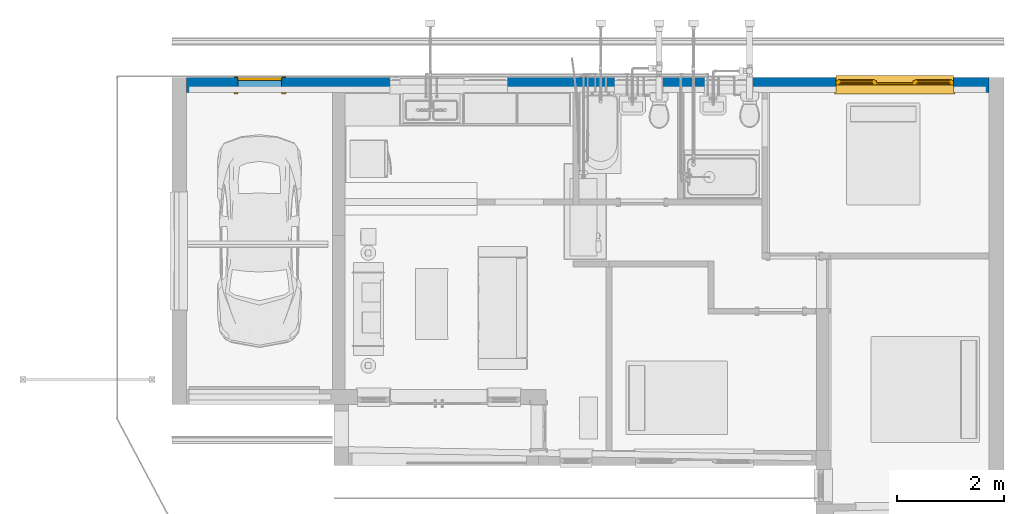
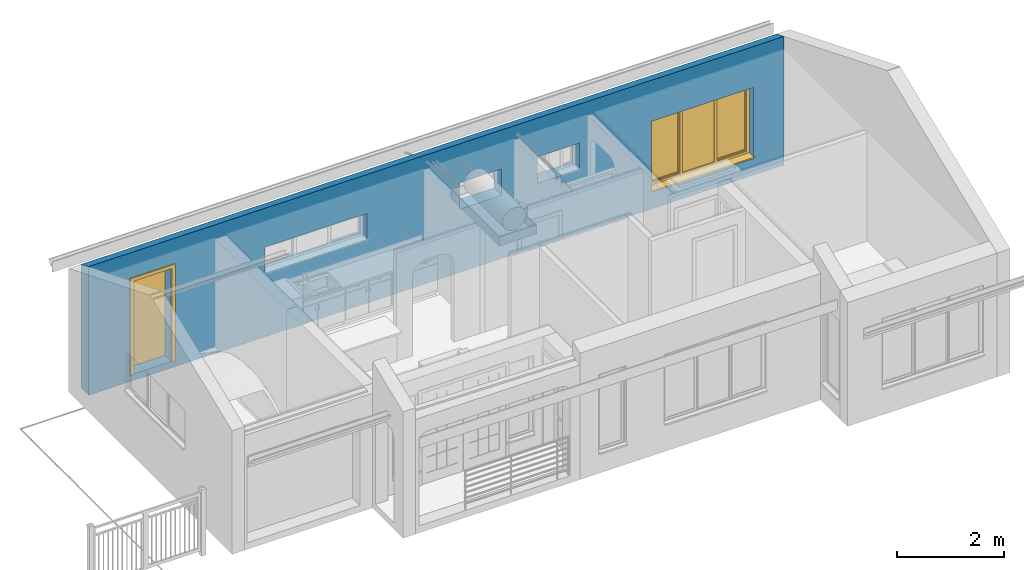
# One storey, part 5 of 41: 1 door, 1 wall, 1 window, 5 openings.
"""IFC2X3 building model written with IfcOpenShell, lengths in millimetres."""

from ifc_helpers import new_model, entity, si_unit, converted_unit, derived_unit, direction, frame, frame_2d, origin, place, context, subcontext, project, spatial, polyline, rectangle, outline, extrude, clip, bounded_halfspace, faceted_brep, source, transform, mapped, material, material_list, layer, layer_set, layer_usage, type_object, type_shapes, element, fill, save


model = new_model("IFC2X3")

# Units and contexts
model_context = context("Model", 3, precision=0.01, world=origin(), true_north=direction((6.12303176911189e-17, 1.0)))
body_context = subcontext(model_context, "Body", "Model", "MODEL_VIEW")
ifc_project = project(units=[si_unit("LENGTHUNIT", "METRE", prefix="MILLI"), si_unit("AREAUNIT", "SQUARE_METRE"), si_unit("VOLUMEUNIT", "CUBIC_METRE"), converted_unit("PLANEANGLEUNIT", "DEGREE", entity("IfcRatioMeasure", 0.0174532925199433), si_unit("PLANEANGLEUNIT", "RADIAN"), dimensions=[0, 0, 0, 0, 0, 0, 0]), si_unit("MASSUNIT", "GRAM", prefix="KILO"), derived_unit("MASSDENSITYUNIT", [(si_unit("MASSUNIT", "GRAM", prefix="KILO"), 1), (si_unit("LENGTHUNIT", "METRE"), -3)]), si_unit("TIMEUNIT", "SECOND"), si_unit("FREQUENCYUNIT", "HERTZ"), si_unit("THERMODYNAMICTEMPERATUREUNIT", "DEGREE_CELSIUS"), derived_unit("THERMALTRANSMITTANCEUNIT", [(si_unit("MASSUNIT", "GRAM", prefix="KILO"), 1), (si_unit("THERMODYNAMICTEMPERATUREUNIT", "KELVIN"), -1), (si_unit("TIMEUNIT", "SECOND"), -3)]), derived_unit("VOLUMETRICFLOWRATEUNIT", [(si_unit("LENGTHUNIT", "METRE"), 3), (si_unit("TIMEUNIT", "SECOND"), -1)]), si_unit("ELECTRICCURRENTUNIT", "AMPERE"), si_unit("ELECTRICVOLTAGEUNIT", "VOLT"), si_unit("POWERUNIT", "WATT"), si_unit("FORCEUNIT", "NEWTON", prefix="KILO"), si_unit("ILLUMINANCEUNIT", "LUX"), si_unit("LUMINOUSFLUXUNIT", "LUMEN"), si_unit("LUMINOUSINTENSITYUNIT", "CANDELA"), derived_unit("USERDEFINED", [(si_unit("MASSUNIT", "GRAM", prefix="KILO"), -1), (si_unit("LENGTHUNIT", "METRE"), -2), (si_unit("TIMEUNIT", "SECOND"), 3), (si_unit("LUMINOUSFLUXUNIT", "LUMEN"), 1)]), derived_unit("LINEARVELOCITYUNIT", [(si_unit("LENGTHUNIT", "METRE"), 1), (si_unit("TIMEUNIT", "SECOND"), -1)]), si_unit("PRESSUREUNIT", "PASCAL"), derived_unit("USERDEFINED", [(si_unit("LENGTHUNIT", "METRE"), -2), (si_unit("MASSUNIT", "GRAM", prefix="KILO"), 1), (si_unit("TIMEUNIT", "SECOND"), -2)])], contexts=[model_context])

# Site, building, storey
site_placement = place(None, origin())
site = spatial("IfcSite", under=ifc_project, at=site_placement, Name="Surface", CompositionType="ELEMENT")
building_placement = place(site_placement, origin())
building = spatial("IfcBuilding", under=site, at=building_placement, CompositionType="ELEMENT")
storey_placement = place(building_placement, frame((0.0, 0.0, 300.0)))
storey = spatial("IfcBuildingStorey", under=building, at=storey_placement, Name="F.F.L", CompositionType="ELEMENT", Elevation=300.0)

# Wall, openings, window, door
ifc_material_1 = material(Name="Brickwork - Facebrick (Plettenberg Autumn)")
ifc_layer_1 = layer(ifc_material_1, 110.0)
ifc_material_2 = material(Name="Air Infiltration Barrier")
ifc_layer_2 = layer(ifc_material_2, 50.0)
ifc_material_3 = material(Name="Brickwork - 110mm (Stock)")
ifc_layer_3 = layer(ifc_material_3, 110.0)
ifc_material_4 = material(Name="Plaster")
ifc_layer_4 = layer(ifc_material_4, 10.0)
ifc_layer_set = layer_set([ifc_layer_1, ifc_layer_2, ifc_layer_3, ifc_layer_4], Name="Basic Wall:BrickWall - 270mm (Ext.F&Int.S)")
ifc_layer_usage = layer_usage(ifc_layer_set, "AXIS2", "NEGATIVE", 140.0)
wall_type = type_object("IfcWallType", Name="Basic Wall:BrickWall - 270mm (Ext.F&Int.S)", PredefinedType="STANDARD", material=ifc_layer_set)
wall_placement = place(storey_placement, frame((-11816.8751700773, 10685.8400891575, -150.0)))
wall = element("IfcWallStandardCase", 1, at=wall_placement, inside=storey, type_object=wall_type, material=ifc_layer_usage, Name="Basic Wall:BrickWall - 270mm (Ext.F&Int.S)", ObjectType="Basic Wall:BrickWall - 270mm (Ext.F&Int.S)", context=body_context, shape_type="Clipping", body=[
    clip(extrude(rectangle(XDim=15000.0, YDim=280.000000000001, at=frame_2d((7500.0, 1.98951966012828e-13), x_axis=(-1.0, 0.0))), origin(), (0.0, 0.0, 1.0), 2933.40741269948), bounded_halfspace(frame((0.0, -140.0, 2933.40741269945), z_axis=(0.0, 0.374606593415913, 0.927183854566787), x_axis=(-1.0, 0.0, 0.0)), False, frame((0.0, -140.0, 2933.40741269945)), polyline([(0.0, 0.0), (2730.0, 0.0), (2960.0, 0.0), (15000.0, 0.0), (15000.0, 280.0), (0.0, 280.0), (0.0, 0.0)]))),
])
opening_1_placement = place(wall_placement, frame((12140.0, -140.0, 400.0)))
opening_1 = element("IfcOpeningElement", 2, at=opening_1_placement, cuts=wall, Name="Tpl All Bars1:Tpl All Bars 4:1", ObjectType="Opening", context=body_context, shape_type="SweptSolid", body=[
    extrude(rectangle(XDim=1600.0, YDim=2200.0, at=frame_2d((800.0, 1100.0), x_axis=(-1.0, 0.0))), frame((0.0, 0.0, 0.0), z_axis=(0.0, 1.0, 0.0), x_axis=(0.0, 0.0, 1.0)), (0.0, 0.0, 1.0), 280.0),
])
opening_2_placement = place(wall_placement, frame((968.500000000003, -140.0, 150.0)))
opening_2 = element("IfcOpeningElement", 3, at=opening_2_placement, cuts=wall, Name="M_Single-Flush:0813 x 2134mm:1", ObjectType="Opening", context=body_context, shape_type="SweptSolid", body=[
    extrude(rectangle(XDim=813.0, YDim=2134.0, at=frame_2d((1067.0, 406.5), x_axis=(0.0, 1.0))), frame((0.0, 0.0, 0.0), z_axis=(0.0, 1.0, 0.0), x_axis=(0.0, 0.0, 1.0)), (0.0, 0.0, 1.0), 280.0),
])
opening_3_placement = place(wall_placement, frame((3805.0, -140.0, 1444.0)))
element("IfcOpeningElement", 4, at=opening_3_placement, cuts=wall, Name="Tpl All Bars1:Tpl All Bars 2:1", ObjectType="Opening", context=body_context, shape_type="SweptSolid", body=[
    extrude(rectangle(XDim=600.000000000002, YDim=2200.0, at=frame_2d((300.000000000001, 1100.0), x_axis=(-1.0, 0.0))), frame((0.0, 0.0, 0.0), z_axis=(0.0, 1.0, 0.0), x_axis=(0.0, 0.0, 1.0)), (0.0, 0.0, 1.0), 280.0),
])
opening_4_placement = place(wall_placement, frame((9685.0, -140.0, 1444.0)))
element("IfcOpeningElement", 5, at=opening_4_placement, cuts=wall, Name="Tpl All Bars1:Tpl All Bars 3:1", ObjectType="Opening", context=body_context, shape_type="SweptSolid", body=[
    extrude(rectangle(XDim=600.000000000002, YDim=899.999999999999, at=frame_2d((300.000000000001, 449.999999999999), x_axis=(-1.0, 0.0))), frame((0.0, 0.0, 0.0), z_axis=(0.0, 1.0, 0.0), x_axis=(0.0, 0.0, 1.0)), (0.0, 0.0, 1.0), 280.0),
])
opening_5_placement = place(wall_placement, frame((8005.0, -140.0, 1444.0)))
element("IfcOpeningElement", 6, at=opening_5_placement, cuts=wall, Name="Tpl All Bars1:Tpl All Bars 3:1", ObjectType="Opening", context=body_context, shape_type="SweptSolid", body=[
    extrude(rectangle(XDim=600.000000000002, YDim=899.999999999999, at=frame_2d((300.000000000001, 449.999999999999), x_axis=(-1.0, 0.0))), frame((0.0, 0.0, 0.0), z_axis=(0.0, 1.0, 0.0), x_axis=(0.0, 0.0, 1.0)), (0.0, 0.0, 1.0), 280.0),
])
ifc_material_5 = material(Name="Meranti - Varnish Mat")
ifc_material_6 = material(Name="Glass")
ifc_material_list_1 = material_list([ifc_material_5, ifc_material_6])
ifc_material_list_2 = material_list([ifc_material_5, ifc_material_6])
window_style = type_object("IfcWindowStyle", Name="Tpl All Bars 4", ConstructionType="NOTDEFINED", OperationType="TRIPLE_PANEL_VERTICAL", ParameterTakesPrecedence=False, Sizeable=False, material=ifc_material_list_2)
shared_shape_1 = source(origin(), body_context, "Body", "Brep", [
    faceted_brep([(-25.0, -25.0, 0.0), (-25.0, 0.0, 0.0), (0.0, 0.0, 0.0), (0.0, 147.0, 0.0), (2200.0, 147.0, 0.0), (2200.0, 0.0, 0.0), (2225.0, 0.0, 0.0), (2225.0, -25.0, 0.0), (-25.0, -25.0, 25.0), (2225.0, -25.0, 25.0), (2225.0, 0.0, 25.0), (2200.0, 0.0, 25.0), (2200.0, 147.0, 25.0), (0.0, 147.0, 25.0), (0.0, 0.0, 25.0), (-25.0, 0.0, 25.0)], [[[0, 1, 2, 3, 4, 5, 6, 7]], [[8, 9, 10, 11, 12, 13, 14, 15]], [[1, 0, 8, 15]], [[2, 1, 15, 14]], [[3, 2, 14, 13]], [[4, 3, 13, 12]], [[5, 4, 12, 11]], [[6, 5, 11, 10]], [[7, 6, 10, 9]], [[0, 7, 9, 8]]]),
    faceted_brep([(2140.0, 147.0, 1540.0), (2140.0, 147.0, 75.0), (1499.66666666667, 147.0, 75.0), (1499.66666666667, 147.0, 1540.0), (1441.66666666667, 147.0, 1540.0), (1441.66666666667, 147.0, 75.0), (758.333333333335, 147.0, 75.0), (758.333333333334, 147.0, 1540.0), (700.333333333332, 147.0, 1540.0), (700.333333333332, 147.0, 75.0), (60.0, 147.0, 75.0), (60.0, 147.0, 1540.0), (2200.0, 147.0, 1600.0), (0.0, 147.0, 1600.0), (0.0, 147.0, 0.0), (2200.0, 147.0, 0.0), (0.0, 230.0, 1600.0), (0.0, 230.0, 51.0), (0.0, 245.0, 49.6876700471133), (0.0, 245.0, 44.7449676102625), (0.0, 317.500000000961, 33.808884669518), (0.0, 317.500000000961, 0.0), (2200.0, 230.0, 1600.0), (2200.0, 230.0, 51.0), (40.0, 230.0, 1560.0), (40.0, 230.0, 63.0), (718.333333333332, 230.0, 63.0), (718.333333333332, 230.0, 1560.0), (758.333333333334, 230.0, 1560.0), (758.333333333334, 230.0, 63.0), (1441.66666666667, 230.0, 63.0), (1441.66666666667, 230.0, 1560.0), (1481.66666666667, 230.0, 1560.0), (1481.66666666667, 230.0, 63.0), (2160.0, 230.0, 63.0), (2160.0, 230.0, 1560.0), (40.0, 165.0, 1560.0), (40.0, 165.0, 63.0), (718.333333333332, 165.0, 1560.0), (718.333333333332, 165.0, 63.0), (700.333333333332, 165.0, 1540.0), (60.0, 165.0, 1540.0), (60.0, 165.0, 75.0), (700.333333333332, 165.0, 75.0), (2200.0, 317.500000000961, 0.0), (2200.0, 317.500000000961, 33.808884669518), (2200.0, 245.0, 44.7449676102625), (2200.0, 245.0, 49.6876700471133), (2160.0, 165.0, 63.0), (2160.0, 165.0, 1560.0), (2140.0, 165.0, 1540.0), (2140.0, 165.0, 75.0), (758.333333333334, 165.0, 1540.0), (758.333333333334, 165.0, 75.0), (758.333333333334, 189.0, 1560.0), (758.333333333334, 189.0, 63.0), (748.333333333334, 189.0, 1560.0), (748.333333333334, 189.0, 63.0), (748.333333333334, 165.0, 1560.0), (748.333333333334, 165.0, 63.0), (1451.66666666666, 189.0, 1560.0), (1451.66666666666, 189.0, 63.0), (1451.66666666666, 165.0, 63.0), (1451.66666666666, 165.0, 1560.0), (1441.66666666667, 189.0, 1560.0), (1441.66666666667, 189.0, 63.0), (1481.66666666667, 165.0, 1560.0), (1481.66666666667, 165.0, 63.0), (1499.66666666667, 165.0, 1540.0), (1499.66666666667, 165.0, 75.0), (1441.66666666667, 165.0, 1540.0), (1441.66666666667, 165.0, 75.0)], [[[0, 1, 2, 3], [4, 5, 6, 7], [8, 9, 10, 11], [12, 13, 14, 15]], [[14, 13, 16, 17, 18, 19, 20, 21]], [[17, 16, 22, 23], [24, 25, 26, 27], [28, 29, 30, 31], [32, 33, 34, 35]], [[25, 24, 36, 37]], [[36, 38, 39, 37], [40, 41, 42, 43]], [[41, 11, 10, 42]], [[13, 12, 22, 16]], [[36, 24, 27, 38]], [[11, 41, 40, 8]], [[23, 22, 12, 15, 44, 45, 46, 47]], [[35, 34, 48, 49]], [[0, 50, 51, 1]], [[52, 7, 6, 53]], [[8, 40, 43, 9]], [[27, 26, 39, 38]], [[29, 28, 54, 55]], [[55, 54, 56, 57]], [[57, 56, 58, 59]], [[60, 61, 62, 63]], [[61, 60, 64, 65]], [[65, 64, 31, 30]], [[33, 32, 66, 67]], [[68, 3, 2, 69]], [[4, 70, 71, 5]], [[44, 15, 14, 21]], [[45, 44, 21, 20]], [[46, 45, 20, 19]], [[47, 46, 19, 18]], [[23, 47, 18, 17]], [[34, 33, 67, 48]], [[2, 1, 51, 69]], [[71, 53, 6, 5]], [[43, 42, 10, 9]], [[59, 62, 61, 65, 30, 29, 55, 57]], [[26, 25, 37, 39]], [[7, 52, 70, 4]], [[50, 0, 3, 68]], [[54, 28, 31, 64, 60, 63, 58, 56]], [[35, 49, 66, 32]], [[58, 63, 62, 59], [70, 52, 53, 71]], [[66, 49, 48, 67], [50, 68, 69, 51]]], outer=[[False, False, False, True], [True], [True, False, False, False], [True], [True, False], [True], [True], [True], [True], [True], [True], [True], [True], [True], [True], [True], [True], [True], [True], [True], [True], [True], [True], [True], [True], [True], [True], [True], [True], [True], [True], [True], [True], [True], [True], [True], [True], [True], [True], [True, False], [True, False]]),
    faceted_brep([(2130.0, 194.0, 1530.0), (1511.66666666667, 194.0, 1530.0), (1511.66666666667, 194.0, 93.0), (2130.0, 194.0, 93.0), (2130.0, 218.0, 1530.0), (2130.0, 218.0, 93.0), (1511.66666666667, 218.0, 93.0), (1511.66666666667, 218.0, 1530.0)], [[[0, 1, 2, 3]], [[4, 5, 6, 7]], [[1, 0, 4, 7]], [[2, 1, 7, 6]], [[3, 2, 6, 5]], [[0, 3, 5, 4]]]),
    faceted_brep([(1451.66666666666, 189.0, 1560.0), (1451.66666666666, 189.0, 63.0), (748.333333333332, 189.0, 63.0), (748.333333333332, 189.0, 1560.0), (1451.66666666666, 165.0, 1560.0), (748.333333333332, 165.0, 1560.0), (748.333333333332, 165.0, 63.0), (1451.66666666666, 165.0, 63.0)], [[[0, 1, 2, 3]], [[4, 5, 6, 7]], [[1, 0, 4, 7]], [[2, 1, 7, 6]], [[3, 2, 6, 5]], [[0, 3, 5, 4]]]),
    faceted_brep([(70.0, 194.0, 1530.14803772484), (70.0, 194.0, 93.0), (688.481371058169, 194.0, 93.0), (688.481371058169, 194.0, 1530.14803772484), (70.0, 218.0, 1530.14803772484), (688.481371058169, 218.0, 1530.14803772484), (688.481371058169, 218.0, 93.0), (70.0, 218.0, 93.0)], [[[0, 1, 2, 3]], [[4, 5, 6, 7]], [[1, 0, 4, 7]], [[2, 1, 7, 6]], [[3, 2, 6, 5]], [[0, 3, 5, 4]]]),
    faceted_brep([(728.333333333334, 230.0, 1570.0), (728.333333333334, 235.773502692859, 1570.0), (30.0, 235.773502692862, 1570.0), (30.0, 230.0, 1570.0), (718.333333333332, 165.0, 1560.0), (718.333333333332, 230.0, 1560.0), (40.0, 230.0, 1560.0), (40.0, 165.0, 1560.0), (678.333333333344, 179.492899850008, 1520.0), (688.481371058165, 165.0, 1530.14803772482), (69.8519622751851, 165.0, 1530.14803772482), (80.0, 179.49289985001, 1520.0), (678.333333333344, 194.0, 1520.0), (80.0, 194.0, 1520.0), (688.333333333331, 218.0, 1530.0), (688.333333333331, 194.0, 1530.0), (70.0, 194.0, 1530.0), (70.0, 218.0, 1530.0), (678.333333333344, 235.773502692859, 1520.0), (678.333333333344, 218.0, 1520.0), (80.0, 218.0, 1520.0), (80.0, 235.773502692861, 1520.0), (695.779088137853, 241.547005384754, 1537.4457548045), (62.5542451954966, 241.547005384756, 1537.4457548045), (717.548723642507, 241.547005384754, 1559.21539030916), (40.7846096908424, 241.547005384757, 1559.21539030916), (30.0, 235.773502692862, 53.0), (30.0, 230.0, 53.0), (40.0, 230.0, 63.0), (40.0, 165.0, 63.0), (69.8519622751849, 165.0, 92.8519622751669), (80.0, 179.49289985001, 103.0), (80.0, 194.0, 103.0), (70.0, 194.0, 93.0), (70.0, 218.0, 93.0), (80.0, 218.0, 103.0), (80.0, 235.773502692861, 103.0), (62.5542451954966, 241.547005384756, 85.5542451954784), (40.7846096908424, 241.547005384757, 63.7846096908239), (728.333333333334, 235.773502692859, 53.0), (728.333333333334, 230.0, 53.0), (718.333333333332, 230.0, 63.0), (718.333333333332, 165.0, 63.0), (688.481371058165, 165.0, 92.8519622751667), (678.333333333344, 179.492899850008, 103.0), (678.333333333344, 194.0, 103.0), (688.333333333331, 194.0, 93.0), (688.333333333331, 218.0, 93.0), (678.333333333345, 218.0, 103.0), (678.333333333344, 235.773502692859, 103.0), (695.779088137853, 241.547005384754, 85.5542451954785), (717.548723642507, 241.547005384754, 63.7846096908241)], [[[0, 1, 2, 3]], [[4, 5, 6, 7]], [[8, 9, 10, 11]], [[12, 8, 11, 13]], [[14, 15, 16, 17]], [[18, 19, 20, 21]], [[22, 18, 21, 23]], [[1, 24, 25, 2]], [[3, 2, 26, 27]], [[7, 6, 28, 29]], [[11, 10, 30, 31]], [[13, 11, 31, 32]], [[17, 16, 33, 34]], [[21, 20, 35, 36]], [[23, 21, 36, 37]], [[2, 25, 38, 26]], [[27, 26, 39, 40]], [[0, 3, 27, 40], [41, 28, 6, 5]], [[29, 28, 41, 42]], [[4, 7, 29, 42], [43, 30, 10, 9]], [[31, 30, 43, 44]], [[32, 31, 44, 45]], [[12, 13, 32, 45], [46, 33, 16, 15]], [[34, 33, 46, 47]], [[14, 17, 34, 47], [48, 35, 20, 19]], [[36, 35, 48, 49]], [[37, 36, 49, 50]], [[22, 23, 37, 50], [51, 38, 25, 24]], [[26, 38, 51, 39]], [[40, 39, 1, 0]], [[42, 41, 5, 4]], [[44, 43, 9, 8]], [[45, 44, 8, 12]], [[47, 46, 15, 14]], [[49, 48, 19, 18]], [[50, 49, 18, 22]], [[39, 51, 24, 1]]], outer=[[True], [True], [True], [True], [True], [True], [True], [True], [True], [True], [True], [True], [True], [True], [True], [True], [True], [True, False], [True], [True, False], [True], [True], [False, True], [True], [True, False], [True], [True], [False, True], [True], [True], [True], [True], [True], [True], [True], [True], [True]]),
    faceted_brep([(1471.66666666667, 230.0, 1570.0), (1471.66666666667, 235.773502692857, 1570.0), (1471.66666666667, 235.773502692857, 53.0), (1471.66666666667, 230.0, 53.0), (1481.66666666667, 165.0, 1560.0), (1481.66666666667, 230.0, 1560.0), (1481.66666666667, 230.0, 63.0), (1481.66666666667, 165.0, 63.0), (1521.66666666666, 179.492899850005, 1520.0), (1511.51862894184, 165.0, 1530.14803772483), (1511.51862894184, 165.0, 92.8519622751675), (1521.66666666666, 179.492899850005, 103.0), (1521.66666666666, 194.0, 1520.0), (1521.66666666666, 194.0, 103.0), (1511.66666666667, 218.0, 1530.0), (1511.66666666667, 194.0, 1530.0), (1511.66666666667, 194.0, 93.0), (1511.66666666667, 218.0, 93.0), (1521.66666666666, 235.773502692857, 1520.0), (1521.66666666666, 218.0, 1520.0), (1521.66666666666, 218.0, 103.0), (1521.66666666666, 235.773502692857, 103.0), (1504.22091186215, 241.547005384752, 1537.44575480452), (1504.22091186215, 241.547005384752, 85.5542451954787), (1482.45127635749, 241.547005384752, 1559.21539030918), (1482.45127635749, 241.547005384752, 63.7846096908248), (2170.0, 235.773502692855, 53.0), (2170.0, 230.0, 53.0), (2160.0, 230.0, 63.0), (2160.0, 165.0, 63.0), (2130.14803772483, 165.0, 92.8519622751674), (2120.0, 179.492899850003, 103.0), (2120.0, 194.0, 103.0), (2130.0, 194.0, 93.0), (2130.0, 218.0, 93.0), (2120.0, 218.0, 103.0), (2120.0, 235.773502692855, 103.0), (2137.44575480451, 241.54700538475, 85.5542451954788), (2159.21539030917, 241.54700538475, 63.7846096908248), (2170.0, 235.773502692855, 1570.0), (2170.0, 230.0, 1570.0), (2160.0, 230.0, 1560.0), (2160.0, 165.0, 1560.0), (2130.14803772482, 165.0, 1530.14803772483), (2120.0, 179.492899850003, 1520.0), (2120.0, 194.0, 1520.0), (2130.0, 194.0, 1530.0), (2130.0, 218.0, 1530.0), (2120.0, 218.0, 1520.0), (2120.0, 235.773502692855, 1520.0), (2137.44575480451, 241.54700538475, 1537.44575480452), (2159.21539030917, 241.54700538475, 1559.21539030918)], [[[0, 1, 2, 3]], [[4, 5, 6, 7]], [[8, 9, 10, 11]], [[12, 8, 11, 13]], [[14, 15, 16, 17]], [[18, 19, 20, 21]], [[22, 18, 21, 23]], [[1, 24, 25, 2]], [[3, 2, 26, 27]], [[7, 6, 28, 29]], [[11, 10, 30, 31]], [[13, 11, 31, 32]], [[17, 16, 33, 34]], [[21, 20, 35, 36]], [[23, 21, 36, 37]], [[2, 25, 38, 26]], [[27, 26, 39, 40]], [[29, 28, 41, 42]], [[31, 30, 43, 44]], [[32, 31, 44, 45]], [[34, 33, 46, 47]], [[36, 35, 48, 49]], [[37, 36, 49, 50]], [[26, 38, 51, 39]], [[40, 39, 1, 0]], [[3, 27, 40, 0], [5, 41, 28, 6]], [[42, 41, 5, 4]], [[7, 29, 42, 4], [9, 43, 30, 10]], [[44, 43, 9, 8]], [[45, 44, 8, 12]], [[13, 32, 45, 12], [15, 46, 33, 16]], [[47, 46, 15, 14]], [[17, 34, 47, 14], [19, 48, 35, 20]], [[49, 48, 19, 18]], [[50, 49, 18, 22]], [[23, 37, 50, 22], [24, 51, 38, 25]], [[39, 51, 24, 1]]], outer=[[True], [True], [True], [True], [True], [True], [True], [True], [True], [True], [True], [True], [True], [True], [True], [True], [True], [True], [True], [True], [True], [True], [True], [True], [True], [True, False], [True], [True, False], [True], [True], [False, True], [True], [True, False], [True], [True], [False, True], [True]]),
    faceted_brep([(1090.0, 173.0, 63.0), (1110.0, 173.0, 63.0), (1110.0, 173.0, 552.0), (1451.66666666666, 173.0, 552.0), (1451.66666666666, 173.0, 572.0), (1110.0, 173.0, 572.0), (1110.0, 173.0, 1051.0), (1451.66666666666, 173.0, 1051.0), (1451.66666666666, 173.0, 1071.0), (1110.0, 173.0, 1071.0), (1110.0, 173.0, 1560.0), (1090.0, 173.0, 1560.0), (1090.0, 173.0, 1071.0), (748.33333333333, 173.0, 1071.0), (748.33333333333, 173.0, 1051.0), (1090.0, 173.0, 1051.0), (1090.0, 173.0, 572.0), (748.33333333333, 173.0, 572.0), (748.33333333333, 173.0, 552.0), (1090.0, 173.0, 552.0), (1090.0, 181.0, 63.0), (1090.0, 181.0, 552.0), (748.33333333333, 181.0, 552.0), (748.33333333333, 181.0, 572.0), (1090.0, 181.0, 572.0), (1090.0, 181.0, 1051.0), (748.33333333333, 181.0, 1051.0), (748.33333333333, 181.0, 1071.0), (1090.0, 181.0, 1071.0), (1090.0, 181.0, 1560.0), (1110.0, 181.0, 1560.0), (1110.0, 181.0, 1071.0), (1451.66666666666, 181.0, 1071.0), (1451.66666666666, 181.0, 1051.0), (1110.0, 181.0, 1051.0), (1110.0, 181.0, 572.0), (1451.66666666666, 181.0, 572.0), (1451.66666666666, 181.0, 552.0), (1110.0, 181.0, 552.0), (1110.0, 181.0, 63.0)], [[[0, 1, 2, 3, 4, 5, 6, 7, 8, 9, 10, 11, 12, 13, 14, 15, 16, 17, 18, 19]], [[20, 21, 22, 23, 24, 25, 26, 27, 28, 29, 30, 31, 32, 33, 34, 35, 36, 37, 38, 39]], [[1, 0, 20, 39]], [[2, 1, 39, 38]], [[3, 2, 38, 37]], [[4, 3, 37, 36]], [[5, 4, 36, 35]], [[6, 5, 35, 34]], [[7, 6, 34, 33]], [[8, 7, 33, 32]], [[9, 8, 32, 31]], [[10, 9, 31, 30]], [[11, 10, 30, 29]], [[12, 11, 29, 28]], [[13, 12, 28, 27]], [[14, 13, 27, 26]], [[15, 14, 26, 25]], [[16, 15, 25, 24]], [[17, 16, 24, 23]], [[18, 17, 23, 22]], [[19, 18, 22, 21]], [[0, 19, 21, 20]]]),
    faceted_brep([(369.166666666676, 210.0, 93.0), (369.166666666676, 210.0, 552.0), (70.0, 210.0, 552.0), (70.0, 210.0, 572.0), (369.166666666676, 210.0, 572.0), (369.166666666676, 210.0, 1051.0), (70.0, 210.0, 1051.0), (70.0, 210.0, 1071.0), (369.166666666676, 210.0, 1071.0), (369.166666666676, 210.0, 1530.0), (389.166666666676, 210.0, 1530.0), (389.166666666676, 210.0, 1071.0), (688.333333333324, 210.0, 1071.0), (688.333333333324, 210.0, 1051.0), (389.166666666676, 210.0, 1051.0), (389.166666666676, 210.0, 572.0), (688.333333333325, 210.0, 572.0), (688.333333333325, 210.0, 552.0), (389.166666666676, 210.0, 552.0), (389.166666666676, 210.0, 93.0), (369.166666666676, 202.0, 93.0), (389.166666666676, 202.0, 93.0), (389.166666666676, 202.0, 552.0), (688.333333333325, 202.0, 552.0), (688.333333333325, 202.0, 572.0), (389.166666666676, 202.0, 572.0), (389.166666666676, 202.0, 1051.0), (688.333333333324, 202.0, 1051.0), (688.333333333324, 202.0, 1071.0), (389.166666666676, 202.0, 1071.0), (389.166666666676, 202.0, 1530.0), (369.166666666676, 202.0, 1530.0), (369.166666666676, 202.0, 1071.0), (70.0, 202.0, 1071.0), (70.0, 202.0, 1051.0), (369.166666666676, 202.0, 1051.0), (369.166666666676, 202.0, 572.0), (70.0, 202.0, 572.0), (70.0, 202.0, 552.0), (369.166666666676, 202.0, 552.0)], [[[0, 1, 2, 3, 4, 5, 6, 7, 8, 9, 10, 11, 12, 13, 14, 15, 16, 17, 18, 19]], [[20, 21, 22, 23, 24, 25, 26, 27, 28, 29, 30, 31, 32, 33, 34, 35, 36, 37, 38, 39]], [[1, 0, 20, 39]], [[2, 1, 39, 38]], [[3, 2, 38, 37]], [[4, 3, 37, 36]], [[5, 4, 36, 35]], [[6, 5, 35, 34]], [[7, 6, 34, 33]], [[8, 7, 33, 32]], [[9, 8, 32, 31]], [[10, 9, 31, 30]], [[11, 10, 30, 29]], [[12, 11, 29, 28]], [[13, 12, 28, 27]], [[14, 13, 27, 26]], [[15, 14, 26, 25]], [[16, 15, 25, 24]], [[17, 16, 24, 23]], [[18, 17, 23, 22]], [[19, 18, 22, 21]], [[0, 19, 21, 20]]]),
    faceted_brep([(1810.83333333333, 210.0, 565.333333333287), (1810.83333333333, 210.0, 93.0), (1810.83333333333, 202.0, 93.0), (1810.83333333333, 202.0, 565.333333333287), (1511.66666666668, 210.0, 565.333333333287), (1511.66666666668, 202.0, 565.333333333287), (1511.66666666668, 210.0, 585.333333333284), (1511.66666666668, 202.0, 585.333333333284), (1810.83333333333, 210.0, 585.333333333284), (1810.83333333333, 202.0, 585.333333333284), (1810.83333333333, 210.0, 1051.0), (1810.83333333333, 202.0, 1051.0), (1511.66666666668, 210.0, 1051.0), (1511.66666666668, 202.0, 1051.0), (1511.66666666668, 210.0, 1071.0), (1511.66666666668, 202.0, 1071.0), (1810.83333333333, 210.0, 1071.0), (1810.83333333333, 202.0, 1071.0), (1810.83333333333, 210.0, 1530.0), (1810.83333333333, 202.0, 1530.0), (1830.83333333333, 210.0, 1530.0), (1830.83333333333, 202.0, 1530.0), (1830.83333333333, 210.0, 1071.0), (1830.83333333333, 202.0, 1071.0), (2130.0, 210.0, 1071.0), (2130.0, 202.0, 1071.0), (2130.0, 210.0, 1051.0), (2130.0, 202.0, 1051.0), (1830.83333333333, 210.0, 1051.0), (1830.83333333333, 202.0, 1051.0), (1830.83333333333, 210.0, 585.333333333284), (1830.83333333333, 202.0, 585.333333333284), (2130.0, 210.0, 585.333333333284), (2130.0, 202.0, 585.333333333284), (2130.0, 210.0, 565.333333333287), (2130.0, 202.0, 565.333333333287), (1830.83333333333, 210.0, 565.333333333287), (1830.83333333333, 202.0, 565.333333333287), (1830.83333333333, 210.0, 93.0), (1830.83333333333, 202.0, 93.0)], [[[0, 1, 2, 3]], [[4, 0, 3, 5]], [[6, 4, 5, 7]], [[8, 6, 7, 9]], [[10, 8, 9, 11]], [[12, 10, 11, 13]], [[14, 12, 13, 15]], [[16, 14, 15, 17]], [[18, 16, 17, 19]], [[20, 18, 19, 21]], [[22, 20, 21, 23]], [[24, 22, 23, 25]], [[26, 24, 25, 27]], [[28, 26, 27, 29]], [[30, 28, 29, 31]], [[32, 30, 31, 33]], [[34, 32, 33, 35]], [[36, 34, 35, 37]], [[38, 36, 37, 39]], [[1, 38, 39, 2]], [[2, 39, 37, 35, 33, 31, 29, 27, 25, 23, 21, 19, 17, 15, 13, 11, 9, 7, 5, 3]], [[1, 0, 4, 6, 8, 10, 12, 14, 16, 18, 20, 22, 24, 26, 28, 30, 32, 34, 36, 38]]]),
])
type_shapes(window_style, [shared_shape_1])
window_placement = place(opening_1_placement, origin())
window = element("IfcWindow", 7, at=window_placement, inside=storey, type_object=window_style, material=ifc_material_list_1, Name="Tpl All Bars1:Tpl All Bars 4", ObjectType="Tpl All Bars 4", OverallHeight=1600.0, OverallWidth=2200.0, context=body_context, shape_type="MappedRepresentation", body=[
    mapped(shared_shape_1, transform((0.0, 0.0, 0.0), scale=1.0)),
])
fill(opening_1, window)
ifc_material_7 = material(Name="Door - Frame")
ifc_material_8 = material(Name="Door - Panel")
ifc_material_list_3 = material_list([ifc_material_7, ifc_material_8])
ifc_material_list_4 = material_list([ifc_material_7, ifc_material_8])
door_style = type_object("IfcDoorStyle", Name="0813 x 2134mm", ConstructionType="NOTDEFINED", OperationType="SINGLE_SWING_RIGHT", ParameterTakesPrecedence=False, Sizeable=False, material=ifc_material_list_4)
shared_shape_2 = source(origin(), body_context, "Body", "SweptSolid", [
    extrude(outline(polyline([(-482.5, -1124.0), (482.5, -1124.0), (482.5, 1086.0), (406.5, 1086.0), (406.5, -1048.0), (-406.5, -1048.0), (-406.5, 1086.0), (-482.5, 1086.0), (-482.5, -1124.0)])), frame((406.500000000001, 280.0, 1086.0), z_axis=(0.0, 1.0, 0.0), x_axis=(1.0, 0.0, 0.0)), (0.0, 0.0, 1.0), 24.9999999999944),
    extrude(outline(polyline([(-1124.0, -482.499999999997), (1086.0, -482.499999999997), (1086.0, -406.500000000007), (-1048.0, -406.500000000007), (-1048.0, 406.500000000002), (1086.0, 406.500000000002), (1086.0, 482.500000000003), (-1124.0, 482.500000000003), (-1124.0, -482.499999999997)])), frame((406.500000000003, -25.0, 1086.0), z_axis=(0.0, 1.0, 0.0), x_axis=(0.0, 0.0, -1.0)), (0.0, 0.0, 1.0), 25.0000000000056),
    extrude(rectangle(XDim=51.0, YDim=813.0, at=frame_2d((1.77635683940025e-14, 0.0), x_axis=(1.0, 0.0))), frame((406.5, 254.499999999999, 0.0), z_axis=(0.0, 0.0, 1.0), x_axis=(0.0, 1.0, 0.0)), (0.0, 0.0, 1.0), 2134.0),
])
type_shapes(door_style, [shared_shape_2])
door_placement = place(opening_2_placement, origin())
door = element("IfcDoor", 8, at=door_placement, inside=storey, type_object=door_style, material=ifc_material_list_3, Name="M_Single-Flush:0813 x 2134mm", ObjectType="0813 x 2134mm", OverallHeight=2134.0, OverallWidth=812.999999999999, context=body_context, shape_type="MappedRepresentation", body=[
    mapped(shared_shape_2, transform((0.0, 0.0, 0.0), scale=1.0)),
])
fill(opening_2, door)

save(model, "model.ifc")
